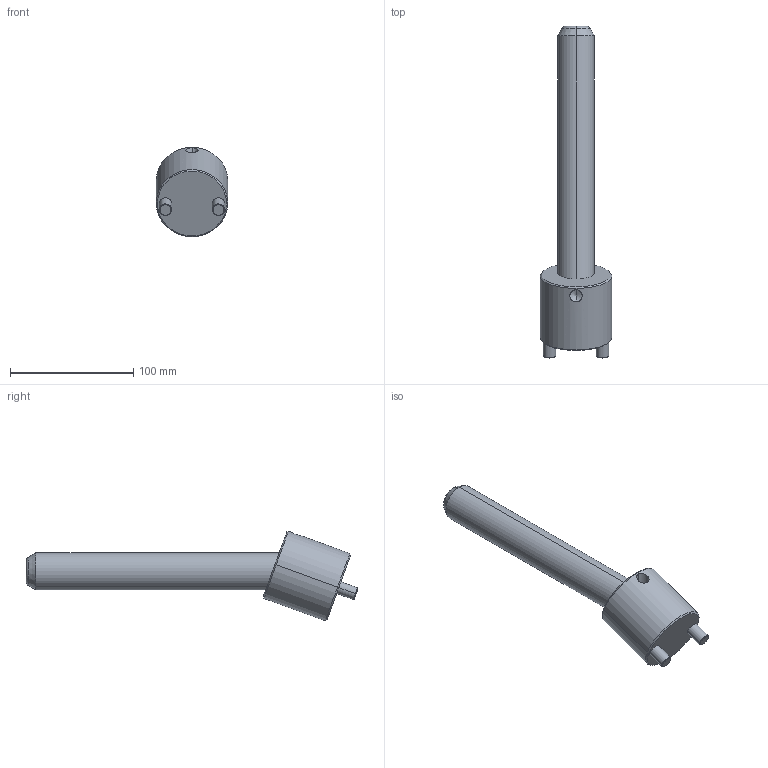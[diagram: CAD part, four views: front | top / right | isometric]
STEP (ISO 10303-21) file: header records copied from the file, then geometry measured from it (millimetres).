
FILE_DESCRIPTION(('CATIA V5 STEP Exchange'),'2;1');
FILE_NAME('C:\Users\Raffaele\Desktop\3D BOLEX\3D FILES CF BOLEX\19-INCLINED ASSEMBLY REF_CI\CI2030200.stp','2019-06-24T06:46:23+00:00',('none'),('none'),'CATIA Version 5 Release 20 GA (IN-10)','CATIA V5 STEP AP203','none');
FILE_SCHEMA(('CONFIG_CONTROL_DESIGN'));
Length unit declared in the file: millimetre
Products named in the file (1): CI2030200
Assembly tree (2 placements, depth 2):
  CI2030200
    #58
    #584
Bounding box: 58 x 269.37 x 72.63 mm (x, y, z)
Volume: 285126.3 mm3; surface area: 44880.6 mm2
Topology: 2 solids, 2 shells, 39 faces, 82 edges, 47 vertices
Faces by surface type: cone 14, cylinder 14, plane 7, torus 4
Entity records: 1554 total; most frequent: CARTESIAN_POINT 691, ORIENTED_EDGE 160, DIRECTION 147, EDGE_CURVE 80, AXIS2_PLACEMENT_3D 74, VERTEX_POINT 47, EDGE_LOOP 43, ADVANCED_FACE 39
